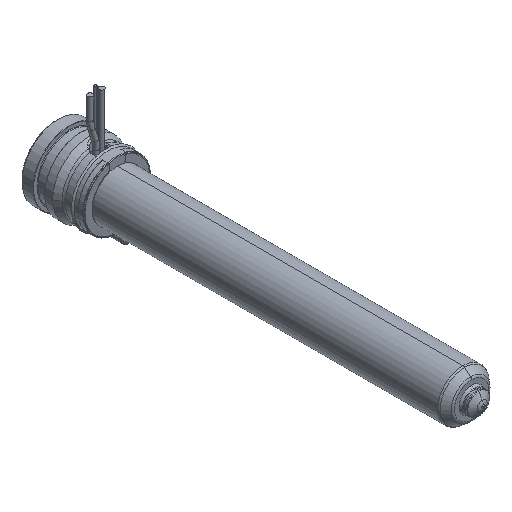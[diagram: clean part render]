
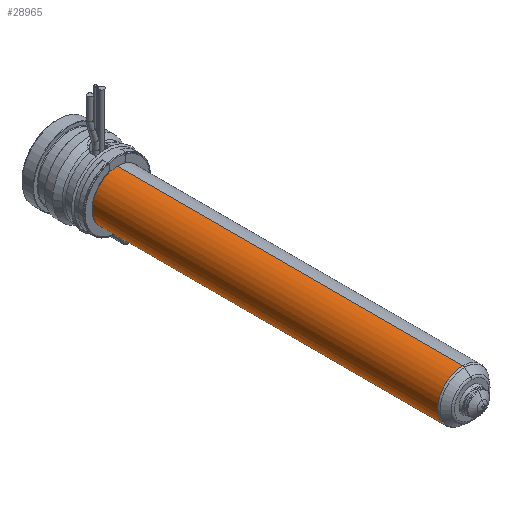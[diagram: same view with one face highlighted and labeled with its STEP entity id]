
A CAD part, isometric view. The second image highlights one B-rep face of the part: STEP entity #28965.
In plain terms, the highlighted cylindrical face has radius 9 mm (diameter 18 mm), a partial arc.
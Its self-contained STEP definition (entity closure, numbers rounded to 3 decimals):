
#28354=CARTESIAN_POINT('',(0.,-145.836,0.));
#28355=DIRECTION('',(0.,-1.,0.));
#28356=DIRECTION('',(0.,0.,1.));
#28357=AXIS2_PLACEMENT_3D('',#28354,#28355,#28356);
#28362=CARTESIAN_POINT('',(0.,-22.,0.));
#28363=DIRECTION('',(0.,-1.,0.));
#28364=DIRECTION('',(0.,0.,1.));
#28365=AXIS2_PLACEMENT_3D('',#28362,#28363,#28364);
#28370=DIRECTION('',(0.,-1.,0.));
#28371=VECTOR('',#28370,123.836);
#28372=CARTESIAN_POINT('',(0.,-22.,9.));
#28373=LINE('',#28372,#28371);
#28385=DIRECTION('',(0.,-1.,0.));
#28386=VECTOR('',#28385,123.836);
#28387=CARTESIAN_POINT('',(0.,-22.,-9.));
#28388=LINE('',#28387,#28386);
#28582=CARTESIAN_POINT('',(0.,-22.,9.));
#28583=CARTESIAN_POINT('',(0.,-145.836,9.));
#28584=VERTEX_POINT('',#28582);
#28585=VERTEX_POINT('',#28583);
#28608=CARTESIAN_POINT('',(0.,-22.,-9.));
#28609=CARTESIAN_POINT('',(0.,-145.836,-9.));
#28610=VERTEX_POINT('',#28608);
#28611=VERTEX_POINT('',#28609);
#28951=CARTESIAN_POINT('',(0.,-11.2,0.));
#28952=DIRECTION('',(0.,-1.,0.));
#28953=DIRECTION('',(0.,0.,1.));
#28954=AXIS2_PLACEMENT_3D('',#28951,#28952,#28953);
#28955=CYLINDRICAL_SURFACE('',#28954,9.);
#28957=ORIENTED_EDGE('',*,*,#28956,.T.);
#28958=ORIENTED_EDGE('',*,*,#28946,.T.);
#28960=ORIENTED_EDGE('',*,*,#28959,.F.);
#28962=ORIENTED_EDGE('',*,*,#28961,.F.);
#28963=EDGE_LOOP('',(#28957,#28958,#28960,#28962));
#28964=FACE_OUTER_BOUND('',#28963,.F.);
#28965=ADVANCED_FACE('',(#28964),#28955,.T.);
#28358=CIRCLE('',#28357,9.);
#28366=CIRCLE('',#28365,9.);
#28946=EDGE_CURVE('',#28585,#28611,#28358,.T.);
#28956=EDGE_CURVE('',#28584,#28585,#28373,.T.);
#28959=EDGE_CURVE('',#28610,#28611,#28388,.T.);
#28961=EDGE_CURVE('',#28584,#28610,#28366,.T.);
